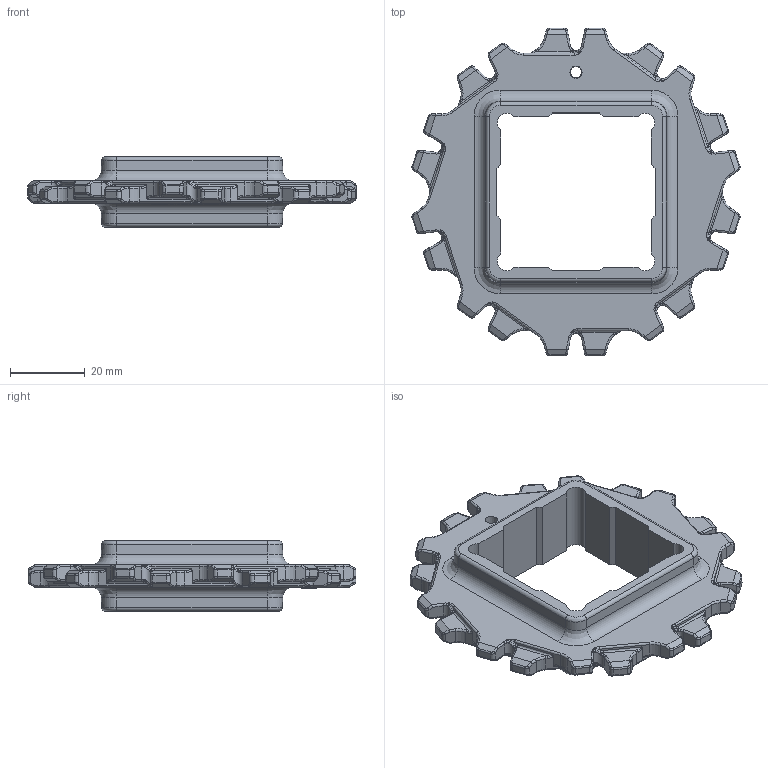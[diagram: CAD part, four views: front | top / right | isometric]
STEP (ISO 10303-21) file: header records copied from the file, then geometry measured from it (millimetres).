
FILE_DESCRIPTION(/* description */ (''),/* implementation_level */ '2;1');
FILE_NAME(/* name */ 'HS-700-10T.stp',/* time_stamp */ '2025-09-12T10:38:01+08:00',/* author */ (''),/* organization */ (''),/* preprocessor_version */ 'ST-DEVELOPER v15',/* originating_system */ 'SIEMENS PLM Software NX 8.5',/* authorisation */ '');
FILE_SCHEMA (('AP203_CONFIGURATION_CONTROLLED_3D_DESIGN_OF_MECHANICAL_PARTS_AND_ASSEMBLIES_MIM_LF { 1 0 10303 403 2 1 2}'));
Length unit declared in the file: millimetre
Products named in the file (1): Admi2A20536371k8
Bounding box: 87.64 x 87.53 x 18.8 mm (x, y, z)
Volume: 29454 mm3; surface area: 14254.3 mm2
Topology: 1 solids, 1 shells, 1045 faces, 2570 edges, 1523 vertices
Faces by surface type: cylinder 418, bspline 256, plane 232, torus 120, extrusion 18, cone 1
Entity records: 34508 total; most frequent: CARTESIAN_POINT 10878, ORIENTED_EDGE 5096, DIRECTION 4896, EDGE_CURVE 2548, AXIS2_PLACEMENT_3D 1966, VERTEX_POINT 1522, EDGE_LOOP 1066, ADVANCED_FACE 1045
